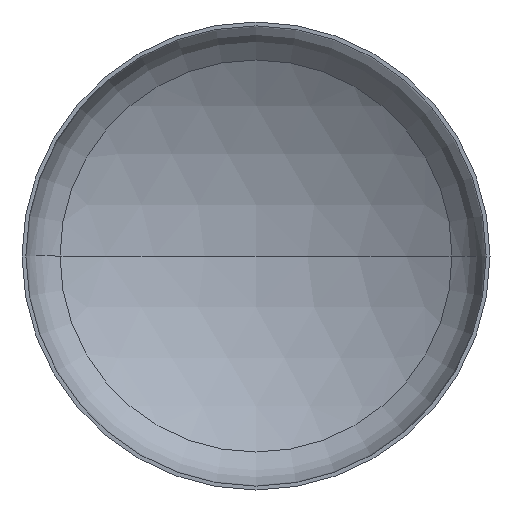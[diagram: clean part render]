
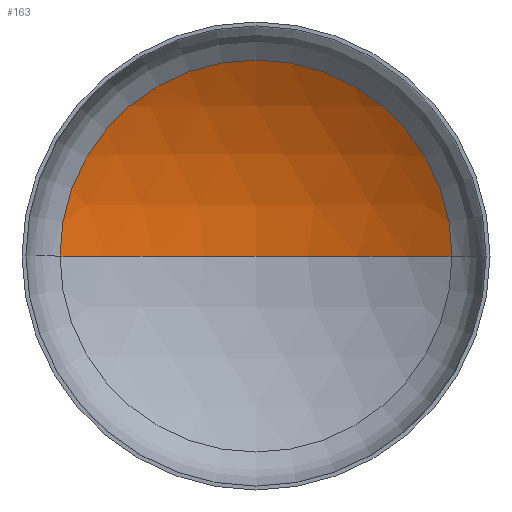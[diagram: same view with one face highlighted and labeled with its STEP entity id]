
A CAD part, front view. The second image highlights one B-rep face of the part: STEP entity #163.
In plain terms, the highlighted spherical face has radius 1440 mm.
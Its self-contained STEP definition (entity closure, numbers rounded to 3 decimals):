
#7 = DIRECTION ( 'NONE',  ( 0., 0., -1. ) ) ;
#8 = VERTEX_POINT ( 'NONE', #266 ) ;
#11 = DIRECTION ( 'NONE',  ( 0., 0., 1. ) ) ;
#18 = CARTESIAN_POINT ( 'NONE',  ( 0., -947.535, 0. ) ) ;
#25 = EDGE_LOOP ( 'NONE', ( #140, #144, #130 ) ) ;
#40 = AXIS2_PLACEMENT_3D ( 'NONE', #215, #399, #247 ) ;
#41 = VERTEX_POINT ( 'NONE', #242 ) ;
#53 = AXIS2_PLACEMENT_3D ( 'NONE', #18, #11, #364 ) ;
#56 = AXIS2_PLACEMENT_3D ( 'NONE', #270, #7, #161 ) ;
#60 = AXIS2_PLACEMENT_3D ( 'NONE', #191, #192, #195 ) ;
#79 = VERTEX_POINT ( 'NONE', #219 ) ;
#110 = EDGE_CURVE ( 'NONE', #8, #41, #180, .T. ) ;
#113 = EDGE_CURVE ( 'NONE', #79, #8, #297, .T. ) ;
#117 = EDGE_CURVE ( 'NONE', #79, #41, #235, .T. ) ;
#130 = ORIENTED_EDGE ( 'NONE', *, *, #110, .T. ) ;
#140 = ORIENTED_EDGE ( 'NONE', *, *, #117, .F. ) ;
#144 = ORIENTED_EDGE ( 'NONE', *, *, #113, .T. ) ;
#161 = DIRECTION ( 'NONE',  ( -1., 0., 0. ) ) ;
#163 = ADVANCED_FACE ( 'NONE', ( #229 ), #165, .F. ) ;
#165 = SPHERICAL_SURFACE ( 'NONE', #40, 1440. ) ;
#180 = CIRCLE ( 'NONE', #60, 753.991 ) ;
#191 = CARTESIAN_POINT ( 'NONE',  ( 0., 279.289, 0. ) ) ;
#192 = DIRECTION ( 'NONE',  ( 0., -1., 0. ) ) ;
#195 = DIRECTION ( 'NONE',  ( 1., 0., 0. ) ) ;
#215 = CARTESIAN_POINT ( 'NONE',  ( 0., -947.535, 0. ) ) ;
#219 = CARTESIAN_POINT ( 'NONE',  ( 0., 492.465, 0. ) ) ;
#229 = FACE_OUTER_BOUND ( 'NONE', #25, .T. ) ;
#235 = CIRCLE ( 'NONE', #53, 1440. ) ;
#242 = CARTESIAN_POINT ( 'NONE',  ( -753.991, 279.289, 0. ) ) ;
#247 = DIRECTION ( 'NONE',  ( -1., 0., 0. ) ) ;
#266 = CARTESIAN_POINT ( 'NONE',  ( 753.991, 279.289, 0. ) ) ;
#270 = CARTESIAN_POINT ( 'NONE',  ( 0., -947.535, 0. ) ) ;
#297 = CIRCLE ( 'NONE', #56, 1440. ) ;
#364 = DIRECTION ( 'NONE',  ( 1., 0., 0. ) ) ;
#399 = DIRECTION ( 'NONE',  ( 0., 0., -1. ) ) ;
